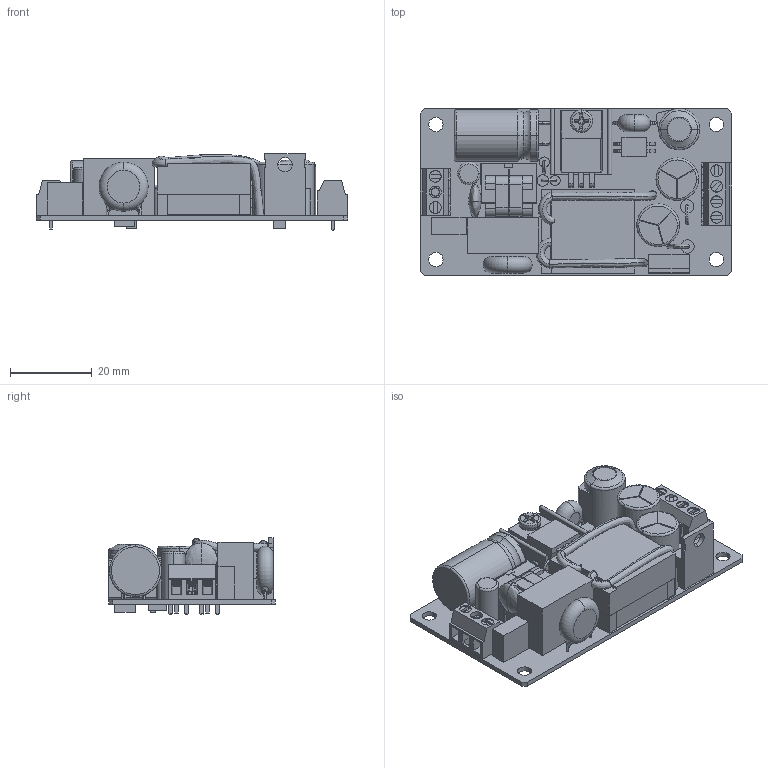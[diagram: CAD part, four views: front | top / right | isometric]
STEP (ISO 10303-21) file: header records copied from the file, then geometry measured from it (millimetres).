
FILE_DESCRIPTION (( 'STEP AP214' ), '1' );
FILE_NAME ('CFM21-S SERIES SPEC-981221.STEP', '2018-02-26T01:53:56', ( 'cincon' ), ( '' ), 'SwSTEP 2.0', 'SolidWorks 2008', '' );
FILE_SCHEMA (( 'AUTOMOTIVE_DESIGN' ));
Length unit declared in the file: millimetre
Products named in the file (6): CFM21-S SERIES SPEC-981221_預設; 3孔-端子臺(進聯)981221; 4孔-端子臺(進聯)981221; 電晶體10mm(附螺絲); CFM21 SERIES散熱片-980706; CFM21-S  SERIES SPEC-981221
Assembly tree (5 placements, depth 2):
  CFM21-S  SERIES SPEC-981221
    4孔-端子臺(進聯)981221
    CFM21-S SERIES SPEC-981221_預設
    CFM21 SERIES散熱片-980706
    電晶體10mm(附螺絲)
    3孔-端子臺(進聯)981221
Bounding box: 76.15 x 40.64 x 18.81 mm (x, y, z)
Volume: 23033.7 mm3; surface area: 20050.8 mm2
Topology: 5 solids, 5 shells, 853 faces, 2271 edges, 1459 vertices
Faces by surface type: plane 604, cylinder 162, torus 42, bspline 35, cone 10
Entity records: 33745 total; most frequent: CARTESIAN_POINT 9171, ORIENTED_EDGE 4534, DIRECTION 4162, EDGE_CURVE 2267, VECTOR 1642, LINE 1642, VERTEX_POINT 1459, AXIS2_PLACEMENT_3D 1260
